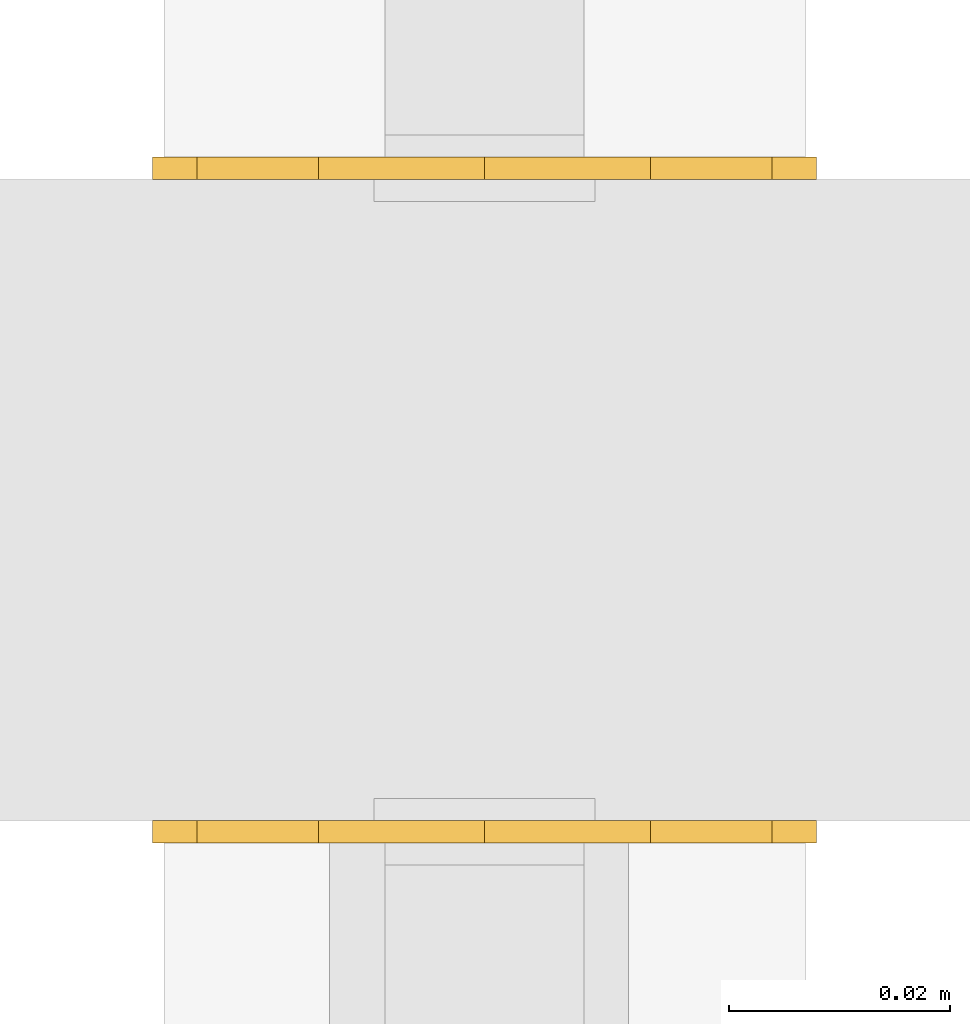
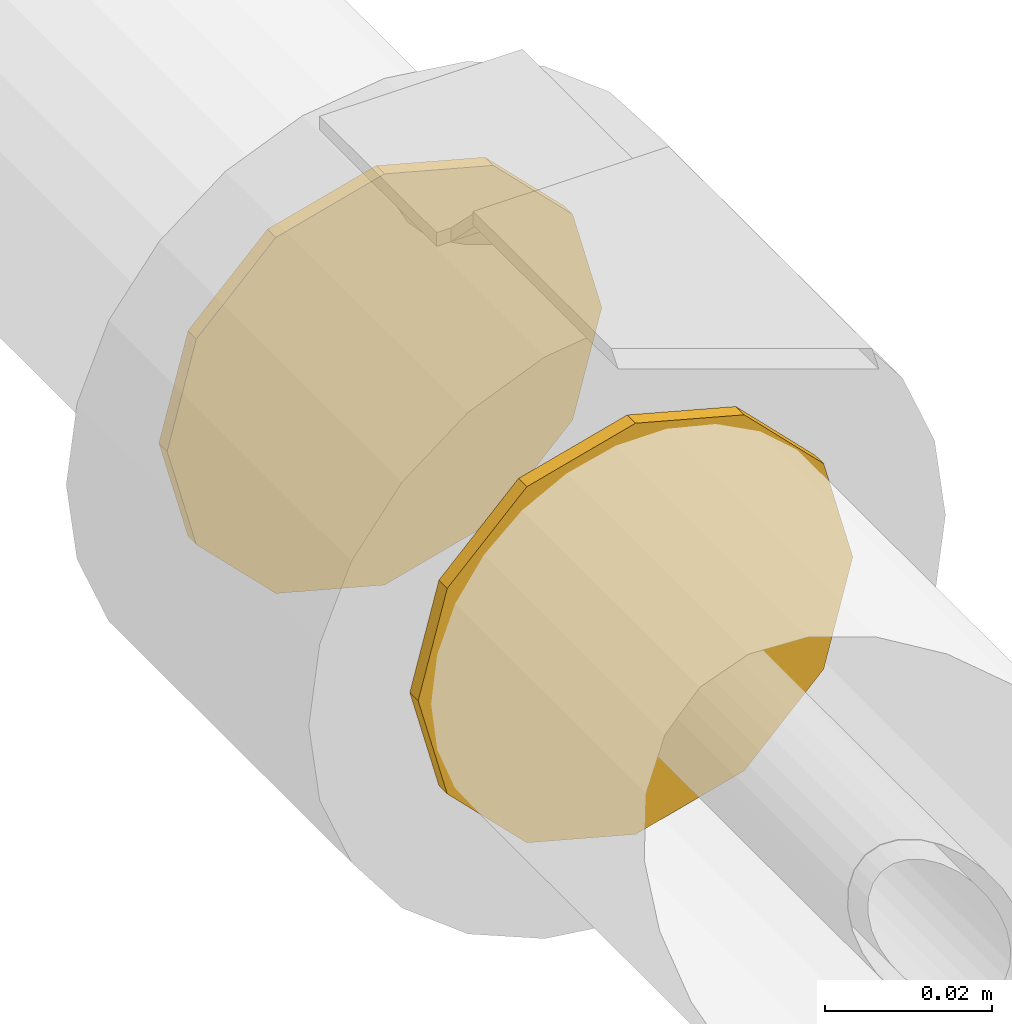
# One storey, part 7 of 78: 2 coverings.
"""IFC2X3 building model written with IfcOpenShell, lengths in millimetres."""

from ifc_helpers import new_model, entity, si_unit, converted_unit, derived_unit, direction, frame, origin_with_axes, place, context, subcontext, project, spatial, open_shell, surface_model, source, transform, mapped, element, save


model = new_model("IFC2X3")

# Units and contexts
model_context = context("Model", 3, precision=0.01, world=frame((0.0, 4.29681676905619e-09, 0.0)), true_north=direction((4.01073788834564e-13, 1.0)))
plan_context = context("Plan", 3, precision=0.01, world=frame((0.0, 4.29681676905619e-09, 0.0)), true_north=direction((4.01073788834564e-13, 1.0)))
body_context = subcontext(model_context, "Body", "Model", "MODEL_VIEW")
ifc_project = project(units=[converted_unit("PLANEANGLEUNIT", "DEGREE", entity("IfcPositiveLengthMeasure", 0.0174532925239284), si_unit("PLANEANGLEUNIT", "RADIAN"), dimensions=[0, 0, 0, 0, 0, 0, 0]), si_unit("AREAUNIT", "SQUARE_METRE"), si_unit("LENGTHUNIT", "METRE", prefix="MILLI"), si_unit("MASSUNIT", "GRAM", prefix="KILO"), si_unit("POWERUNIT", "WATT"), si_unit("PRESSUREUNIT", "PASCAL"), si_unit("FORCEUNIT", "NEWTON", prefix="KILO"), si_unit("ELECTRICVOLTAGEUNIT", "VOLT"), si_unit("ELECTRICCURRENTUNIT", "AMPERE"), si_unit("THERMODYNAMICTEMPERATUREUNIT", "DEGREE_CELSIUS"), si_unit("TIMEUNIT", "SECOND"), si_unit("VOLUMEUNIT", "CUBIC_METRE"), derived_unit("LINEARVELOCITYUNIT", [(si_unit("LENGTHUNIT", "METRE"), 1), (si_unit("TIMEUNIT", "SECOND"), -1)]), derived_unit("VOLUMETRICFLOWRATEUNIT", [(si_unit("VOLUMEUNIT", "CUBIC_METRE"), 1), (si_unit("TIMEUNIT", "SECOND"), -1)]), derived_unit("THERMALTRANSMITTANCEUNIT", [(si_unit("POWERUNIT", "WATT"), 1), (si_unit("THERMODYNAMICTEMPERATUREUNIT", "KELVIN"), -1), (si_unit("AREAUNIT", "SQUARE_METRE"), -1)]), derived_unit("SOUNDPRESSUREUNIT", [(si_unit("PRESSUREUNIT", "PASCAL"), 1)])], contexts=[model_context, plan_context])

# Site, building, storey
site_placement = place(None, frame((0.0, -4.29681676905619e-09, 0.0), z_axis=(0.0, 0.0, 1.0), x_axis=(1.0, 0.0, 0.0)))
site = spatial("IfcSite", under=ifc_project, at=site_placement, Name="ENGM", CompositionType="ELEMENT")
building_placement = place(site_placement, frame((0.0, 4.29681676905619e-09, 0.0), z_axis=(0.0, 0.0, 1.0), x_axis=(1.0, 0.0, 0.0)))
building = spatial("IfcBuilding", under=site, at=building_placement, Name="TH", CompositionType="ELEMENT")
storey_placement = place(building_placement, frame((0.0, 0.0, 205200.0), z_axis=(0.0, 0.0, 1.0), x_axis=(1.0, 0.0, 0.0)))
storey = spatial("IfcBuildingStorey", under=building, at=storey_placement, Name="Nivå D + 1,2 m", CompositionType="ELEMENT", Elevation=205200.0)

# Coverings
shared_shape = source(origin_with_axes(), body_context, "Body", "SurfaceModel", [
    surface_model("IfcShellBasedSurfaceModel", [(2.0, 0.0, 30.0), (2.0, -15.0, 25.98076), (2.0, -25.98076, 15.0), (2.0, 15.0, -25.98076), (2.0, 15.0, 25.98076), (2.0, 25.98076, 15.0), (2.0, 30.0, 0.0), (2.0, 0.0, -30.0), (2.0, -30.0, 0.0), (2.0, -15.0, -25.98076), (2.0, 25.98076, -15.0), (2.0, -25.98076, -15.0), (0.0, -15.0, 25.98076), (0.0, 0.0, 30.0), (0.0, 15.0, 25.98076), (0.0, 25.98076, -15.0), (0.0, -30.0, 0.0), (0.0, -25.98076, 15.0), (0.0, 25.98076, 15.0), (0.0, 30.0, 0.0), (0.0, -15.0, -25.98076), (0.0, 15.0, -25.98076), (0.0, -25.98076, -15.0), (0.0, 0.0, -30.0), (0.0, -27.99038, -7.5), (2.0, -28.47077, -5.70715), (0.0, -20.49038, -20.49038), (2.0, -7.5, -27.99038), (0.0, -5.70715, -28.47077), (2.0, -20.49038, -20.49038), (0.0, 7.5, -27.99038), (2.0, 5.70715, -28.47077), (0.0, 20.49038, -20.49038), (2.0, 27.99038, -7.5), (0.0, 28.47077, -5.70715), (2.0, 20.49038, -20.49038), (0.0, 27.99038, 7.5), (2.0, 28.47077, 5.70715), (0.0, 20.49038, 20.49038), (2.0, 7.5, 27.99038), (0.0, 5.70715, 28.47077), (2.0, 20.49038, 20.49038), (0.0, -7.5, 27.99038), (2.0, -5.70715, 28.47077), (0.0, -20.49038, 20.49038), (2.0, -27.99038, 7.5), (0.0, -28.47077, 5.70715), (2.0, -20.49038, 20.49038)], [open_shell([[[0, 1, 2]], [[3, 4, 2]], [[2, 4, 0]], [[5, 4, 6]], [[7, 2, 8]], [[9, 7, 8]], [[7, 3, 2]], [[6, 3, 10]], [[6, 4, 3]], [[9, 8, 11]], [[12, 13, 14]], [[15, 16, 14]], [[14, 17, 12]], [[17, 14, 16]], [[14, 18, 19]], [[16, 15, 20]], [[20, 15, 21]], [[20, 22, 16]], [[20, 21, 23]], [[14, 19, 15]], [[11, 24, 22]], [[16, 25, 8]], [[25, 16, 24]], [[9, 26, 20]], [[20, 27, 9]], [[27, 20, 28]], [[26, 9, 29]], [[28, 7, 27]], [[29, 11, 22]], [[29, 22, 26]], [[28, 23, 7]], [[11, 25, 24]], [[3, 30, 21]], [[23, 31, 7]], [[31, 23, 30]], [[10, 32, 15]], [[15, 33, 10]], [[33, 15, 34]], [[32, 10, 35]], [[34, 6, 33]], [[35, 3, 21]], [[35, 21, 32]], [[34, 19, 6]], [[3, 31, 30]], [[5, 36, 18]], [[19, 37, 6]], [[37, 19, 36]], [[4, 38, 14]], [[14, 39, 4]], [[39, 14, 40]], [[38, 4, 41]], [[40, 0, 39]], [[41, 5, 18]], [[41, 18, 38]], [[40, 13, 0]], [[5, 37, 36]], [[1, 42, 12]], [[13, 43, 0]], [[43, 13, 42]], [[2, 44, 17]], [[17, 45, 2]], [[45, 17, 46]], [[44, 2, 47]], [[46, 8, 45]], [[47, 1, 12]], [[47, 12, 44]], [[46, 16, 8]], [[1, 43, 42]]])]),
])
for number, where, z_axis, x_axis in (
    (1, (904834.075, 478046.26399, 4410.0), (0.0, 0.0, 1.0), (0.0, 1.0, 0.0)),
    (2, (904834.075, 478108.26399, 4410.0), (0.0, 0.0, 1.0), (0.0, -1.0, 0.0)),
):
    element("IfcCovering", number, at=place(storey_placement, frame(where, z_axis=z_axis, x_axis=x_axis)), inside=storey, Name="BI20T - Cellegummi 13 mm kalde rør", PredefinedType="INSULATION", context=body_context, shape_type="MappedRepresentation", body=[
        mapped(shared_shape, transform((0.0, 0.0, 0.0), scale=1.0)),
    ])

save(model, "model.ifc")
